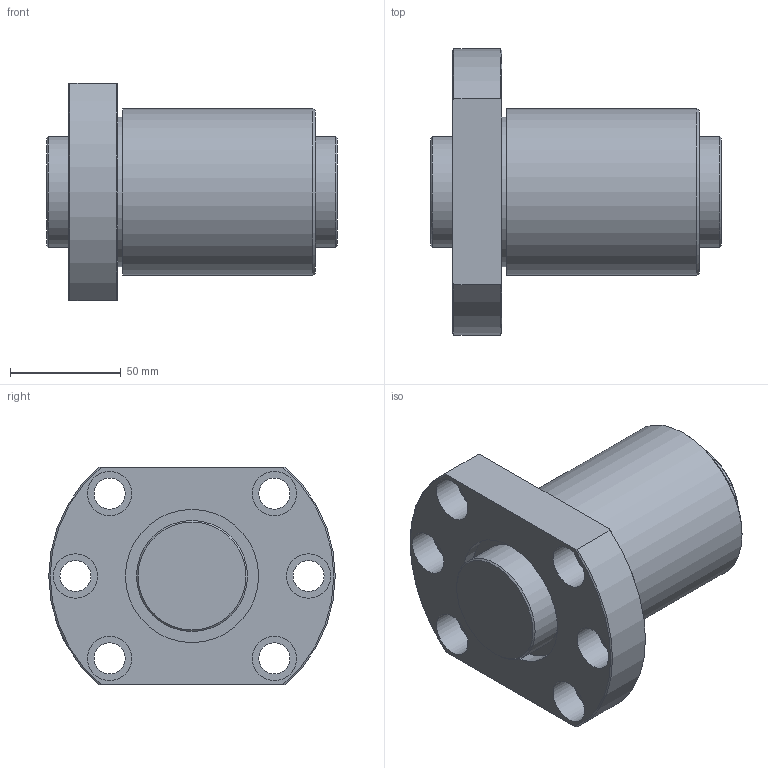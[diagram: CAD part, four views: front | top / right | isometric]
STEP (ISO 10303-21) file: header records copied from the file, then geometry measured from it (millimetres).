
FILE_DESCRIPTION(/* description */ ('STEP AP203'),/* implementation_level */ '2;1');
FILE_NAME(/* name */ 'DK5016-3RRG1+131LC0_000',/* time_stamp */ '2025-01-13T09:21:04+01:00',/* author */ ('License CC BY-ND 4.0'),/* organization */ ('CADENAS'),/* preprocessor_version */ 'ST-DEVELOPER v19.3',/* originating_system */ 'PARTsolutions',/* authorisation */ ' ');
FILE_SCHEMA (('CONFIG_CONTROL_DESIGN'));
Length unit declared in the file: millimetre
Products named in the file (3): DK5016-3RRG1+131LC0_000; DK 5016-3RR013100 Shaft; DK 5016-3RR0Nut
Assembly tree (2 placements, depth 2):
  DK5016-3RRG1+131LC0_000
    DK 5016-3RR013100 Shaft
    DK 5016-3RR0Nut
Bounding box: 131 x 129 x 98 mm (x, y, z)
Volume: 633345.7 mm3; surface area: 98118.9 mm2
Topology: 2 solids, 2 shells, 46 faces, 94 edges, 62 vertices
Faces by surface type: cylinder 21, plane 16, cone 9
Full cylindrical faces by diameter (mm): 8.566 x1, 14 x6, 20 x6, 50 x2, 60 x2, 67.5 x1, 75 x1
Entity records: 1222 total; most frequent: CARTESIAN_POINT 226, DIRECTION 204, ORIENTED_EDGE 134, AXIS2_PLACEMENT_3D 98, EDGE_LOOP 96, FACE_BOUND 96, EDGE_CURVE 67, VERTEX_POINT 59
